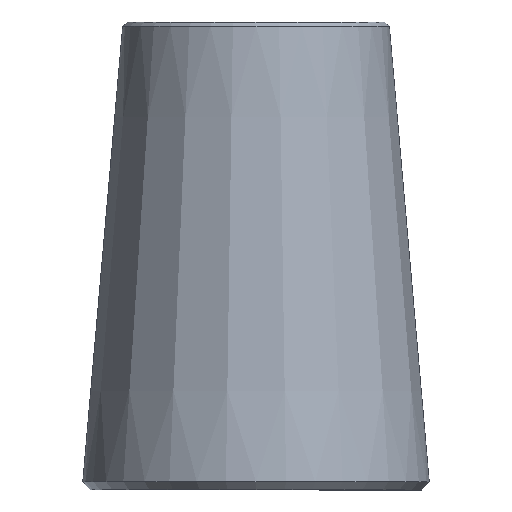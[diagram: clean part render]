
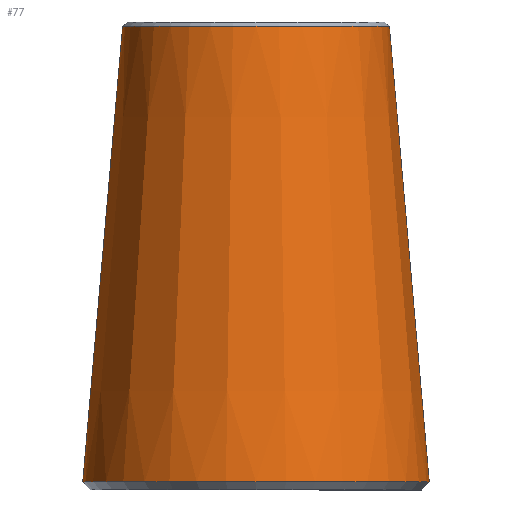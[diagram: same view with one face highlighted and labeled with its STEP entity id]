
A CAD part, left-side view. The second image highlights one B-rep face of the part: STEP entity #77.
In plain terms, the highlighted conical face has half-angle 5 degrees and reference radius 37.057 mm.
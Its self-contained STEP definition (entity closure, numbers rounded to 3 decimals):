
#20=FACE_BOUND('',#34,.T.);
#25=FACE_OUTER_BOUND('',#33,.T.);
#33=EDGE_LOOP('',(#63));
#34=EDGE_LOOP('',(#64));
#44=CIRCLE('',#87,41.826);
#45=CIRCLE('',#89,32.201);
#50=VERTEX_POINT('',#130);
#51=VERTEX_POINT('',#133);
#56=EDGE_CURVE('',#50,#50,#44,.T.);
#57=EDGE_CURVE('',#51,#51,#45,.T.);
#63=ORIENTED_EDGE('',*,*,#57,.F.);
#64=ORIENTED_EDGE('',*,*,#56,.F.);
#74=CONICAL_SURFACE('',#88,37.057,5.);
#77=ADVANCED_FACE('',(#25,#20),#74,.T.);
#87=AXIS2_PLACEMENT_3D('',#131,#104,#105);
#88=AXIS2_PLACEMENT_3D('',#132,#106,#107);
#89=AXIS2_PLACEMENT_3D('',#134,#108,#109);
#104=DIRECTION('center_axis',(0.,0.,
-1.));
#105=DIRECTION('ref_axis',(0.,1.,0.));
#106=DIRECTION('center_axis',(0.,0.,-1.));
#107=DIRECTION('ref_axis',(0.,-1.,0.));
#108=DIRECTION('center_axis',(0.,0.,1.));
#109=DIRECTION('ref_axis',(0.,1.,0.));
#130=CARTESIAN_POINT('',(0.,-41.826,1.992));
#131=CARTESIAN_POINT('Origin',(0.,0.,1.992));
#132=CARTESIAN_POINT('Origin',(0.,0.,56.5));
#133=CARTESIAN_POINT('',(0.,-32.201,112.004));
#134=CARTESIAN_POINT('Origin',(0.,0.,
112.004));
